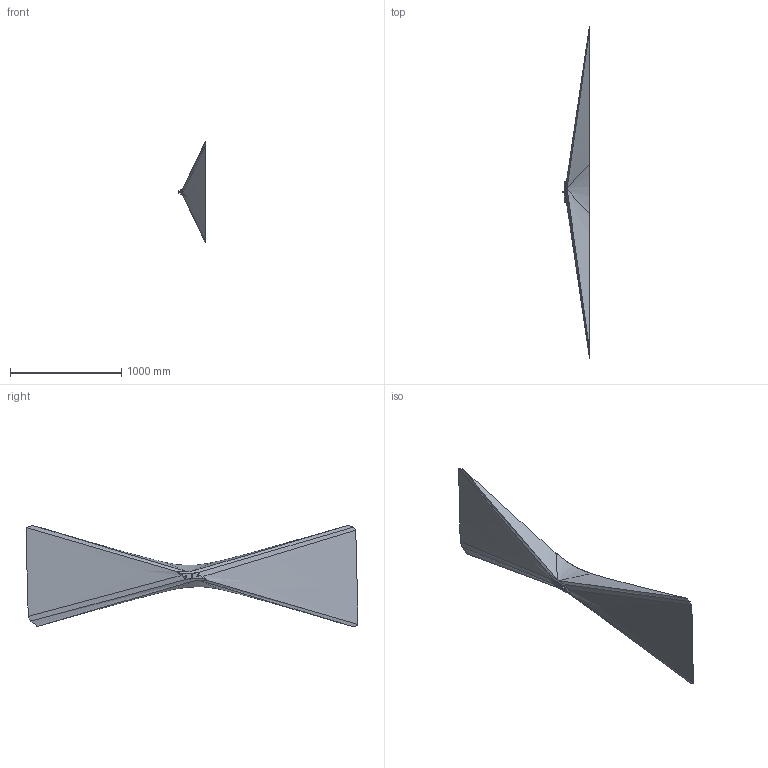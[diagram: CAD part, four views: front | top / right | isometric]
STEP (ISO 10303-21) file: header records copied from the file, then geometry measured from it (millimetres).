
FILE_DESCRIPTION(('CATIA V5 STEP Exchange','CAx-IF Rec.Pracs.--- Model Styling and Organization---1.5--- 2016-08-15','CAx-IF Rec.Pracs.---Supplemental Geometry---1.0---2011-11-01','CAx-IF Rec.Pracs.--- Composite Materials ---1.1---2010-07-15'),'2;1');
FILE_NAME('E:\tmp\ddx\2011204\3D_data_LED_direction_indicator_lamp_SHAPELINE_style_slim_2BA 013 335.stp','2022-01-18T07:28:51+00:00',('none'),('none'),'CATIA Version 5-6 Release 2020 SP3 HF9','CATIA V5 STEP AP214 Edition 3 v2','none');
FILE_SCHEMA(('AUTOMOTIVE_DESIGN { 1 0 10303 214 3 1 1 1 }'));
Products named in the file (1): 10002757353_D10_001
Bounding box: 240.4 x 2984.62 x 914.88 mm (x, y, z)
Volume: 130701.1 mm3; surface area: 2422637.9 mm2
Topology: 1 solids, 3 shells, 831 faces, 1962 edges, 1128 vertices
Faces by surface type: bspline 428, cylinder 212, plane 107, torus 40, cone 38, sphere 6
Entity records: 46136 total; most frequent: CARTESIAN_POINT 31354, ORIENTED_EDGE 3844, EDGE_CURVE 1944, DIRECTION 1468, B_SPLINE_CURVE_WITH_KNOTS 1226, VERTEX_POINT 1128, EDGE_LOOP 844, ADVANCED_FACE 831
